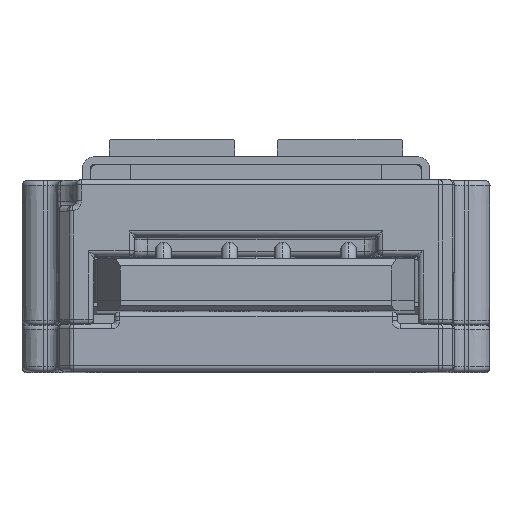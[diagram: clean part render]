
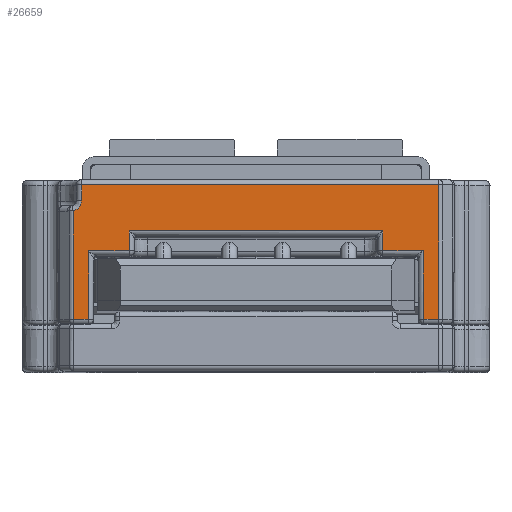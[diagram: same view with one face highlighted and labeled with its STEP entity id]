
A CAD part, top view. The second image highlights one B-rep face of the part: STEP entity #26659.
In plain terms, the highlighted planar face has unit normal (0, -0.004, 1) as drawn and (0.003, 0, 1) by its records, which use the part's own axes.
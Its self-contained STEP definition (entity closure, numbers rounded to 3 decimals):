
#496 = VERTEX_POINT ( 'NONE', #50221 ) ;
#893 = VERTEX_POINT ( 'NONE', #89100 ) ;
#920 = VECTOR ( 'NONE', #78153, 1000. ) ;
#1721 = EDGE_CURVE ( 'NONE', #496, #12876, #105912, .T. ) ;
#2842 = CARTESIAN_POINT ( 'NONE',  ( 2.701, -4.798, -0.009 ) ) ;
#3289 = CARTESIAN_POINT ( 'NONE',  ( 2.701, 6.323, -0.009 ) ) ;
#4047 = CARTESIAN_POINT ( 'NONE',  ( 5.301, 6.909, -0.019 ) ) ;
#5215 = ORIENTED_EDGE ( 'NONE', *, *, #37262, .T. ) ;
#5369 = CARTESIAN_POINT ( 'NONE',  ( 0.804, -6.598, -0.003 ) ) ;
#6071 = LINE ( 'NONE', #72079, #47995 ) ;
#6164 = DIRECTION ( 'NONE',  ( 1., 0.001, -0.003 ) ) ;
#7882 = EDGE_LOOP ( 'NONE', ( #35779, #111158, #15345, #5215, #10916, #81738, #110002, #31455, #60120, #80356, #102477, #62622, #100478, #20491 ) ) ;
#8813 = VERTEX_POINT ( 'NONE', #40930 ) ;
#9922 = EDGE_CURVE ( 'NONE', #13473, #60399, #37448, .T. ) ;
#10916 = ORIENTED_EDGE ( 'NONE', *, *, #44708, .T. ) ;
#12317 = DIRECTION ( 'NONE',  ( -1., 0.001, 0.003 ) ) ;
#12802 = EDGE_CURVE ( 'NONE', #70700, #54043, #76956, .T. ) ;
#12876 = VERTEX_POINT ( 'NONE', #26067 ) ;
#13473 = VERTEX_POINT ( 'NONE', #3289 ) ;
#15345 = ORIENTED_EDGE ( 'NONE', *, *, #63806, .T. ) ;
#19552 = EDGE_CURVE ( 'NONE', #21541, #51781, #40631, .T. ) ;
#20491 = ORIENTED_EDGE ( 'NONE', *, *, #28469, .T. ) ;
#21226 = LINE ( 'NONE', #30854, #26620 ) ;
#21541 = VERTEX_POINT ( 'NONE', #64176 ) ;
#24937 = CARTESIAN_POINT ( 'NONE',  ( 1., -6.599, -0.003 ) ) ;
#25463 = EDGE_CURVE ( 'NONE', #88928, #21541, #95049, .T. ) ;
#26067 = CARTESIAN_POINT ( 'NONE',  ( 2.701, -6.323, -0.009 ) ) ;
#26620 = VECTOR ( 'NONE', #90962, 1000. ) ;
#26659 = ADVANCED_FACE ( 'NONE', ( #107528 ), #57552, .T. ) ;
#28469 = EDGE_CURVE ( 'NONE', #28613, #88928, #31824, .T. ) ;
#28559 = VECTOR ( 'NONE', #6164, 1000. ) ;
#28613 = VERTEX_POINT ( 'NONE', #4047 ) ;
#29067 = VECTOR ( 'NONE', #82869, 1000. ) ;
#30854 = CARTESIAN_POINT ( 'NONE',  ( -0.107, 4.774, 0. ) ) ;
#31455 = ORIENTED_EDGE ( 'NONE', *, *, #12802, .T. ) ;
#31824 = LINE ( 'NONE', #89416, #57471 ) ;
#32524 = CARTESIAN_POINT ( 'NONE',  ( 0.804, -6.598, -0.003 ) ) ;
#32644 = CARTESIAN_POINT ( 'NONE',  ( 0., -7.5, 0. ) ) ;
#34638 = CARTESIAN_POINT ( 'NONE',  ( 5.301, 6.346, -0.019 ) ) ;
#35106 = CARTESIAN_POINT ( 'NONE',  ( 0.024, -4.775, 0. ) ) ;
#35779 = ORIENTED_EDGE ( 'NONE', *, *, #25463, .T. ) ;
#37262 = EDGE_CURVE ( 'NONE', #105788, #69936, #47434, .T. ) ;
#37448 = LINE ( 'NONE', #67044, #110331 ) ;
#40631 = LINE ( 'NONE', #104208, #108145 ) ;
#40726 = CARTESIAN_POINT ( 'NONE',  ( 1.951, -4.792, -0.007 ) ) ;
#40742 = EDGE_CURVE ( 'NONE', #893, #8813, #21226, .T. ) ;
#40893 = DIRECTION ( 'NONE',  ( 1., 0.009, -0.003 ) ) ;
#40925 = DIRECTION ( 'NONE',  ( 1., 0., -0.003 ) ) ;
#40930 = CARTESIAN_POINT ( 'NONE',  ( 2.701, 4.798, -0.009 ) ) ;
#42642 = CARTESIAN_POINT ( 'NONE',  ( 5.301, -6.909, -0.019 ) ) ;
#43056 = VECTOR ( 'NONE', #52139, 1000. ) ;
#43986 = VECTOR ( 'NONE', #91026, 1000. ) ;
#44191 = DIRECTION ( 'NONE',  ( 1., -0.009, -0.003 ) ) ;
#44708 = EDGE_CURVE ( 'NONE', #69936, #496, #58953, .T. ) ;
#47434 = LINE ( 'NONE', #83971, #28559 ) ;
#47995 = VECTOR ( 'NONE', #62618, 1000. ) ;
#50221 = CARTESIAN_POINT ( 'NONE',  ( 5.301, -6.346, -0.019 ) ) ;
#50549 = VECTOR ( 'NONE', #110696, 1000. ) ;
#51769 = CARTESIAN_POINT ( 'NONE',  ( 2.701, -7.5, -0.009 ) ) ;
#51781 = VERTEX_POINT ( 'NONE', #5369 ) ;
#52139 = DIRECTION ( 'NONE',  ( 0., 1., 0. ) ) ;
#54043 = VERTEX_POINT ( 'NONE', #40726 ) ;
#56404 = EDGE_CURVE ( 'NONE', #12876, #70700, #75059, .T. ) ;
#57029 =( BOUNDED_CURVE ( )  B_SPLINE_CURVE ( 3, ( #32524, #24937, #92996, #57807 ),
 .UNSPECIFIED., .F., .F. ) 
 B_SPLINE_CURVE_WITH_KNOTS ( ( 4, 4 ),
 ( 4.721, 6.076 ),
 .UNSPECIFIED. ) 
 CURVE ( )  GEOMETRIC_REPRESENTATION_ITEM ( )  RATIONAL_B_SPLINE_CURVE ( ( 1., 0.853, 0.853, 1. ) ) 
 REPRESENTATION_ITEM ( '' )  );
#57471 = VECTOR ( 'NONE', #12317, 1000. ) ;
#57552 = PLANE ( 'NONE',  #78241 ) ;
#57807 = CARTESIAN_POINT ( 'NONE',  ( 1.192, -6.915, -0.004 ) ) ;
#58127 = DIRECTION ( 'NONE',  ( 0., -1., 0. ) ) ;
#58953 = LINE ( 'NONE', #104918, #920 ) ;
#60120 = ORIENTED_EDGE ( 'NONE', *, *, #90412, .T. ) ;
#60399 = VERTEX_POINT ( 'NONE', #34638 ) ;
#62618 = DIRECTION ( 'NONE',  ( 0., 1., 0. ) ) ;
#62622 = ORIENTED_EDGE ( 'NONE', *, *, #9922, .T. ) ;
#63806 = EDGE_CURVE ( 'NONE', #51781, #105788, #57029, .T. ) ;
#64176 = CARTESIAN_POINT ( 'NONE',  ( 0.201, -6.592, -0.001 ) ) ;
#67044 = CARTESIAN_POINT ( 'NONE',  ( -0.12, 6.299, 0. ) ) ;
#69180 = DIRECTION ( 'NONE',  ( -1., 0.009, 0.003 ) ) ;
#69936 = VERTEX_POINT ( 'NONE', #42642 ) ;
#70700 = VERTEX_POINT ( 'NONE', #2842 ) ;
#70952 = EDGE_CURVE ( 'NONE', #8813, #13473, #97233, .T. ) ;
#71009 = CARTESIAN_POINT ( 'NONE',  ( 1.192, -6.915, -0.004 ) ) ;
#72072 = VECTOR ( 'NONE', #58127, 1000. ) ;
#72079 = CARTESIAN_POINT ( 'NONE',  ( 1.951, 4.593, -0.007 ) ) ;
#73275 = EDGE_CURVE ( 'NONE', #60399, #28613, #87136, .T. ) ;
#75059 = LINE ( 'NONE', #90464, #29067 ) ;
#75191 = CARTESIAN_POINT ( 'NONE',  ( 0.201, -7.5, -0.001 ) ) ;
#76956 = LINE ( 'NONE', #35106, #99950 ) ;
#78153 = DIRECTION ( 'NONE',  ( 0., 1., 0. ) ) ;
#78241 = AXIS2_PLACEMENT_3D ( 'NONE', #32644, #93117, #40925 ) ;
#79635 = CARTESIAN_POINT ( 'NONE',  ( 0.201, 6.917, -0.001 ) ) ;
#80356 = ORIENTED_EDGE ( 'NONE', *, *, #40742, .T. ) ;
#81738 = ORIENTED_EDGE ( 'NONE', *, *, #1721, .T. ) ;
#82869 = DIRECTION ( 'NONE',  ( 0., 1., 0. ) ) ;
#83971 = CARTESIAN_POINT ( 'NONE',  ( 5.5, -6.909, -0.019 ) ) ;
#87136 = LINE ( 'NONE', #107935, #43986 ) ;
#88928 = VERTEX_POINT ( 'NONE', #79635 ) ;
#89100 = CARTESIAN_POINT ( 'NONE',  ( 1.951, 4.792, -0.007 ) ) ;
#89416 = CARTESIAN_POINT ( 'NONE',  ( 0., 6.917, 0. ) ) ;
#90412 = EDGE_CURVE ( 'NONE', #54043, #893, #6071, .T. ) ;
#90464 = CARTESIAN_POINT ( 'NONE',  ( 2.701, -7.5, -0.009 ) ) ;
#90962 = DIRECTION ( 'NONE',  ( 1., 0.009, -0.003 ) ) ;
#91026 = DIRECTION ( 'NONE',  ( 0., 1., 0. ) ) ;
#92996 = CARTESIAN_POINT ( 'NONE',  ( 1.152, -6.724, -0.004 ) ) ;
#93117 = DIRECTION ( 'NONE',  ( 0.003, 0., 1. ) ) ;
#94205 = CARTESIAN_POINT ( 'NONE',  ( 0.01, -6.3, 0. ) ) ;
#95049 = LINE ( 'NONE', #75191, #72072 ) ;
#97233 = LINE ( 'NONE', #51769, #43056 ) ;
#99950 = VECTOR ( 'NONE', #69180, 1000. ) ;
#100478 = ORIENTED_EDGE ( 'NONE', *, *, #73275, .T. ) ;
#102477 = ORIENTED_EDGE ( 'NONE', *, *, #70952, .T. ) ;
#104208 = CARTESIAN_POINT ( 'NONE',  ( 0.008, -6.591, 0. ) ) ;
#104918 = CARTESIAN_POINT ( 'NONE',  ( 5.301, -6.148, -0.019 ) ) ;
#105788 = VERTEX_POINT ( 'NONE', #71009 ) ;
#105912 = LINE ( 'NONE', #94205, #50549 ) ;
#107528 = FACE_OUTER_BOUND ( 'NONE', #7882, .T. ) ;
#107935 = CARTESIAN_POINT ( 'NONE',  ( 5.301, 6.992, -0.019 ) ) ;
#108145 = VECTOR ( 'NONE', #44191, 1000. ) ;
#110002 = ORIENTED_EDGE ( 'NONE', *, *, #56404, .T. ) ;
#110331 = VECTOR ( 'NONE', #40893, 1000. ) ;
#110696 = DIRECTION ( 'NONE',  ( -1., 0.009, 0.003 ) ) ;
#111158 = ORIENTED_EDGE ( 'NONE', *, *, #19552, .T. ) ;
